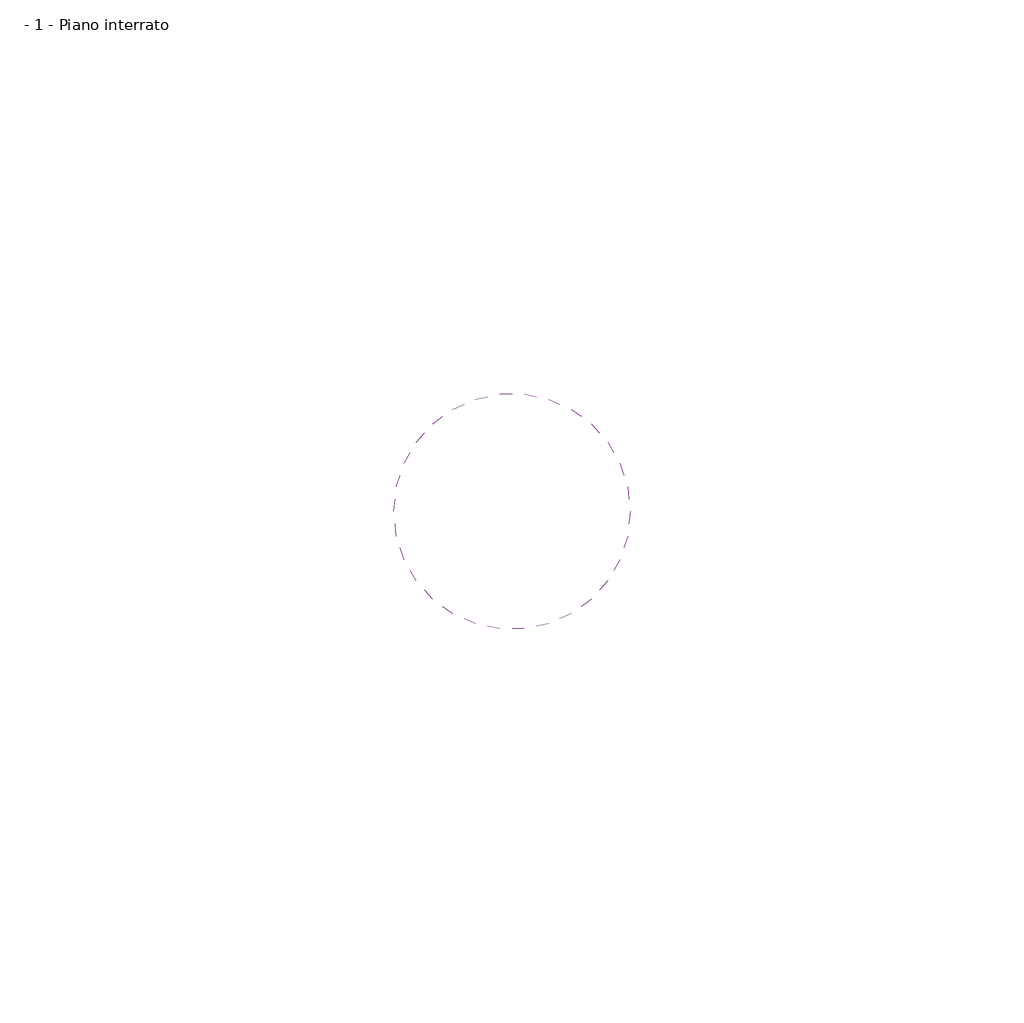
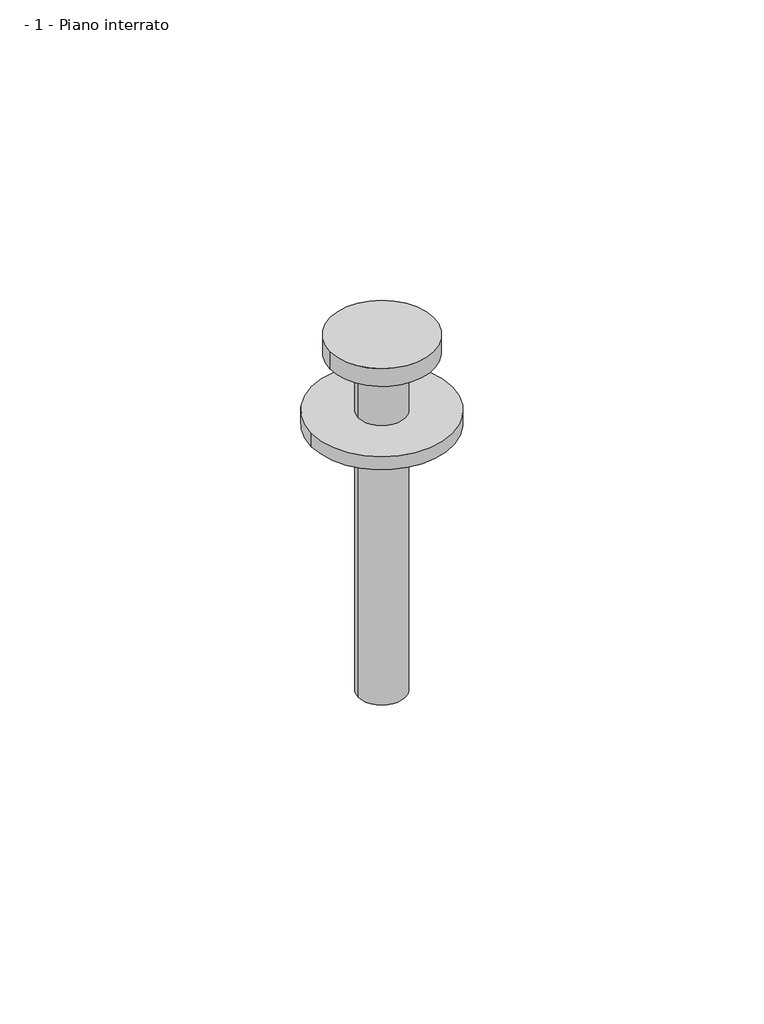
# One storey: 1 proxy.
"""IFC4 building model written with IfcOpenShell, lengths in millimetres."""

from ifc_helpers import new_model, si_unit, origin, place, context, project, spatial, transform, mapped, element, save
from components import generic_models_5daa82fc

model = new_model("IFC4")

# Units and contexts
model_context = context("Model", 3, world=origin())
ifc_project = project(units=[si_unit("LENGTHUNIT", "METRE", prefix="MILLI")], contexts=[model_context])

# Site, building, storey
site = spatial("IfcSite", under=ifc_project)
building = spatial("IfcBuilding", under=site)
storey = spatial("IfcBuildingStorey", under=building, Name="- 1 - Piano interrato", Elevation=-2500.0)

# Proxy
placement = place(None, origin())
generic_models_shape = generic_models_5daa82fc(model_context)
element("IfcBuildingElementProxy", 1, Name="ITA-Connettore 20 VOLTECO : ITA-Connettore 20 VOLTECO", ObjectType="ITA-Connettore 20 VOLTECO : ITA-Connettore 20 VOLTECO", at=placement, inside=storey, context=model_context, shape_type="MappedRepresentation", body=[
    mapped(generic_models_shape, transform((-1948.4014568, 5078.6229368, 2640.0), x_axis=(1.0, 0.0, 0.0), y_axis=(0.0, 1.0, 0.0), z_axis=(0.0, 0.0, 1.0))),
])

save(model, "model.ifc")
